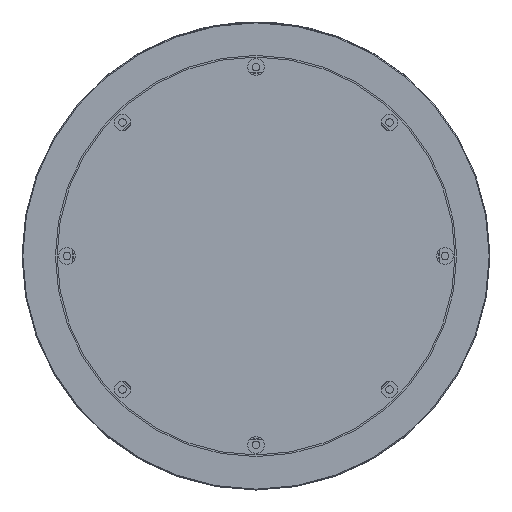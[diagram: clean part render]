
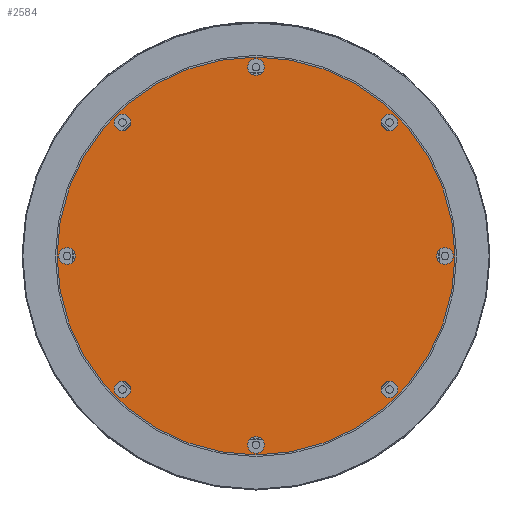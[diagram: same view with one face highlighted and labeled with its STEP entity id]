
A CAD part, left-side view. The second image highlights one B-rep face of the part: STEP entity #2584.
In plain terms, the highlighted planar face has unit normal (-1, 0, 0).
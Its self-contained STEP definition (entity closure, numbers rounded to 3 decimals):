
#526=PLANE('',#2809);
#728=CIRCLE('',#2747,5.);
#732=CIRCLE('',#2754,5.);
#736=CIRCLE('',#2761,5.);
#740=CIRCLE('',#2768,5.);
#744=CIRCLE('',#2775,5.);
#748=CIRCLE('',#2782,5.);
#752=CIRCLE('',#2789,5.);
#756=CIRCLE('',#2796,5.);
#760=CIRCLE('',#2803,119.);
#937=VERTEX_POINT('',#14721);
#941=VERTEX_POINT('',#14732);
#945=VERTEX_POINT('',#14743);
#949=VERTEX_POINT('',#14754);
#953=VERTEX_POINT('',#14765);
#957=VERTEX_POINT('',#14776);
#961=VERTEX_POINT('',#14787);
#965=VERTEX_POINT('',#14798);
#969=VERTEX_POINT('',#14809);
#1268=EDGE_CURVE('',#937,#937,#728,.T.);
#1272=EDGE_CURVE('',#941,#941,#732,.T.);
#1276=EDGE_CURVE('',#945,#945,#736,.T.);
#1280=EDGE_CURVE('',#949,#949,#740,.T.);
#1284=EDGE_CURVE('',#953,#953,#744,.T.);
#1288=EDGE_CURVE('',#957,#957,#748,.T.);
#1292=EDGE_CURVE('',#961,#961,#752,.T.);
#1296=EDGE_CURVE('',#965,#965,#756,.T.);
#1300=EDGE_CURVE('',#969,#969,#760,.T.);
#1856=ORIENTED_EDGE('',*,*,#1268,.T.);
#1857=ORIENTED_EDGE('',*,*,#1272,.T.);
#1858=ORIENTED_EDGE('',*,*,#1276,.T.);
#1859=ORIENTED_EDGE('',*,*,#1280,.T.);
#1860=ORIENTED_EDGE('',*,*,#1284,.T.);
#1861=ORIENTED_EDGE('',*,*,#1288,.T.);
#1862=ORIENTED_EDGE('',*,*,#1292,.T.);
#1863=ORIENTED_EDGE('',*,*,#1296,.T.);
#1864=ORIENTED_EDGE('',*,*,#1300,.F.);
#2132=EDGE_LOOP('',(#1856));
#2133=EDGE_LOOP('',(#1857));
#2134=EDGE_LOOP('',(#1858));
#2135=EDGE_LOOP('',(#1859));
#2136=EDGE_LOOP('',(#1860));
#2137=EDGE_LOOP('',(#1861));
#2138=EDGE_LOOP('',(#1862));
#2139=EDGE_LOOP('',(#1863));
#2140=EDGE_LOOP('',(#1864));
#2408=FACE_BOUND('',#2132,.T.);
#2409=FACE_BOUND('',#2133,.T.);
#2410=FACE_BOUND('',#2134,.T.);
#2411=FACE_BOUND('',#2135,.T.);
#2412=FACE_BOUND('',#2136,.T.);
#2413=FACE_BOUND('',#2137,.T.);
#2414=FACE_BOUND('',#2138,.T.);
#2415=FACE_BOUND('',#2139,.T.);
#2416=FACE_BOUND('',#2140,.T.);
#2584=ADVANCED_FACE('',(#2408,#2409,#2410,#2411,#2412,#2413,#2414,#2415,
#2416),#526,.T.);
#2747=AXIS2_PLACEMENT_3D('',#14720,#3152,#3153);
#2754=AXIS2_PLACEMENT_3D('',#14731,#3165,#3166);
#2761=AXIS2_PLACEMENT_3D('',#14742,#3178,#3179);
#2768=AXIS2_PLACEMENT_3D('',#14753,#3191,#3192);
#2775=AXIS2_PLACEMENT_3D('',#14764,#3204,#3205);
#2782=AXIS2_PLACEMENT_3D('',#14775,#3217,#3218);
#2789=AXIS2_PLACEMENT_3D('',#14786,#3230,#3231);
#2796=AXIS2_PLACEMENT_3D('',#14797,#3243,#3244);
#2803=AXIS2_PLACEMENT_3D('',#14808,#3256,#3257);
#2809=AXIS2_PLACEMENT_3D('',#14817,#3266,$);
#3152=DIRECTION('',(1.,0.,0.));
#3153=DIRECTION('',(0.,0.,5.));
#3165=DIRECTION('',(1.,0.,0.));
#3166=DIRECTION('',(0.,0.,5.));
#3178=DIRECTION('',(1.,0.,0.));
#3179=DIRECTION('',(0.,0.,5.));
#3191=DIRECTION('',(1.,0.,0.));
#3192=DIRECTION('',(0.,0.,5.));
#3204=DIRECTION('',(1.,0.,0.));
#3205=DIRECTION('',(0.,0.,5.));
#3217=DIRECTION('',(1.,0.,0.));
#3218=DIRECTION('',(0.,0.,5.));
#3230=DIRECTION('',(1.,0.,0.));
#3231=DIRECTION('',(0.,0.,5.));
#3243=DIRECTION('',(1.,0.,0.));
#3244=DIRECTION('',(0.,0.,5.));
#3256=DIRECTION('',(1.,0.,0.));
#3257=DIRECTION('',(0.,119.,0.));
#3266=DIRECTION('',(-1.,0.,0.));
#14720=CARTESIAN_POINT('',(0.,79.903,-79.903));
#14721=CARTESIAN_POINT('',(0.,79.903,-74.903));
#14731=CARTESIAN_POINT('',(0.,0.,
-113.));
#14732=CARTESIAN_POINT('',(0.,0.,
-108.));
#14742=CARTESIAN_POINT('',(0.,-79.903,-79.903));
#14743=CARTESIAN_POINT('',(0.,-79.903,-74.903));
#14753=CARTESIAN_POINT('',(0.,-113.,0.));
#14754=CARTESIAN_POINT('',(0.,-113.,5.));
#14764=CARTESIAN_POINT('',(0.,-79.903,79.903));
#14765=CARTESIAN_POINT('',(0.,-79.903,84.903));
#14775=CARTESIAN_POINT('',(0.,0.,113.));
#14776=CARTESIAN_POINT('',(0.,0.,118.));
#14786=CARTESIAN_POINT('',(0.,79.903,79.903));
#14787=CARTESIAN_POINT('',(0.,79.903,84.903));
#14797=CARTESIAN_POINT('',(0.,113.,0.));
#14798=CARTESIAN_POINT('',(0.,113.,5.));
#14808=CARTESIAN_POINT('',(0.,0.,0.));
#14809=CARTESIAN_POINT('',(0.,119.,0.));
#14817=CARTESIAN_POINT('',(0.,59.5,0.));
